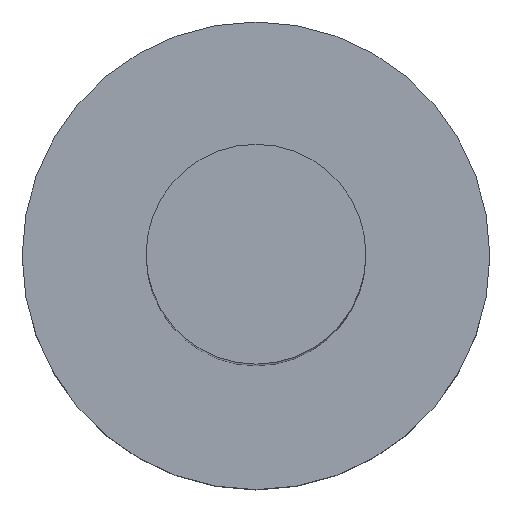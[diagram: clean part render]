
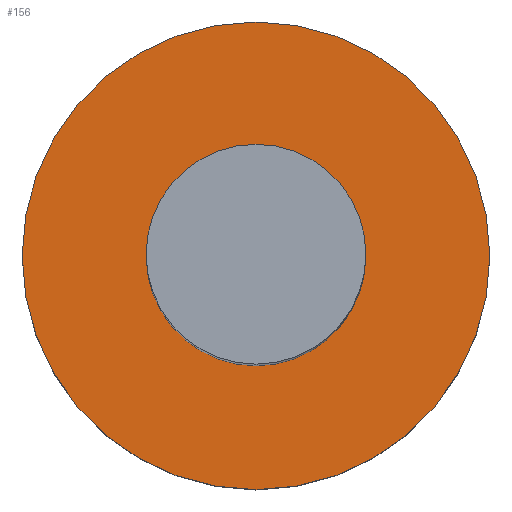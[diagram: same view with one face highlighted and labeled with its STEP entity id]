
A CAD part, top view. The second image highlights one B-rep face of the part: STEP entity #156.
In plain terms, the highlighted planar face has unit normal (0, 0, 1).
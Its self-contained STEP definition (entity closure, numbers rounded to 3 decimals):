
#12 = AXIS2_PLACEMENT_3D ( 'NONE', #109, #198, #201 ) ;
#16 = DIRECTION ( 'NONE',  ( 1., 0., 0. ) ) ;
#22 = CIRCLE ( 'NONE', #154, 2.5 ) ;
#35 = EDGE_LOOP ( 'NONE', ( #103, #211 ) ) ;
#42 = VERTEX_POINT ( 'NONE', #83 ) ;
#49 = DIRECTION ( 'NONE',  ( 1., 0., 0. ) ) ;
#61 = EDGE_CURVE ( 'NONE', #42, #195, #22, .T. ) ;
#69 = CARTESIAN_POINT ( 'NONE',  ( 0., 0., 0. ) ) ;
#83 = CARTESIAN_POINT ( 'NONE',  ( 2.5, 0., 0. ) ) ;
#93 = EDGE_CURVE ( 'NONE', #195, #42, #217, .T. ) ;
#103 = ORIENTED_EDGE ( 'NONE', *, *, #61, .T. ) ;
#109 = CARTESIAN_POINT ( 'NONE',  ( 0., 0., 0. ) ) ;
#111 = FACE_OUTER_BOUND ( 'NONE', #35, .T. ) ;
#140 = DIRECTION ( 'NONE',  ( 0., 0., 1. ) ) ;
#146 = CARTESIAN_POINT ( 'NONE',  ( -2.5, 0., 0. ) ) ;
#147 = AXIS2_PLACEMENT_3D ( 'NONE', #190, #226, #16 ) ;
#154 = AXIS2_PLACEMENT_3D ( 'NONE', #69, #140, #49 ) ;
#156 = ADVANCED_FACE ( 'NONE', ( #111 ), #163, .T. ) ;
#163 = PLANE ( 'NONE',  #12 ) ;
#190 = CARTESIAN_POINT ( 'NONE',  ( 0., 0., 0. ) ) ;
#195 = VERTEX_POINT ( 'NONE', #146 ) ;
#198 = DIRECTION ( 'NONE',  ( 0., 0., 1. ) ) ;
#201 = DIRECTION ( 'NONE',  ( 1., 0., 0. ) ) ;
#211 = ORIENTED_EDGE ( 'NONE', *, *, #93, .T. ) ;
#217 = CIRCLE ( 'NONE', #147, 2.5 ) ;
#226 = DIRECTION ( 'NONE',  ( 0., 0., 1. ) ) ;
